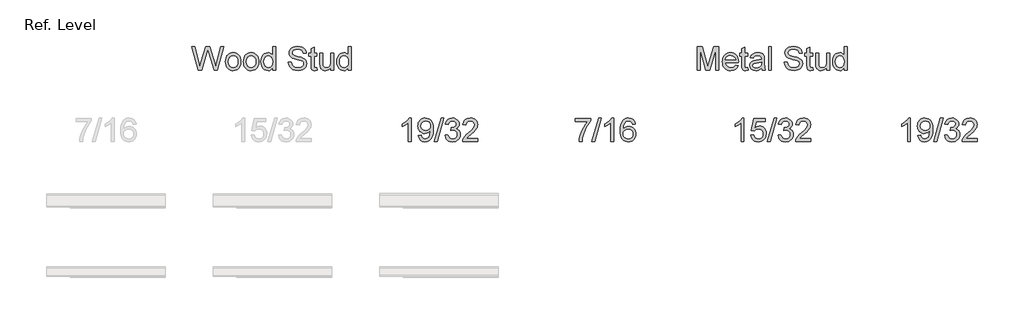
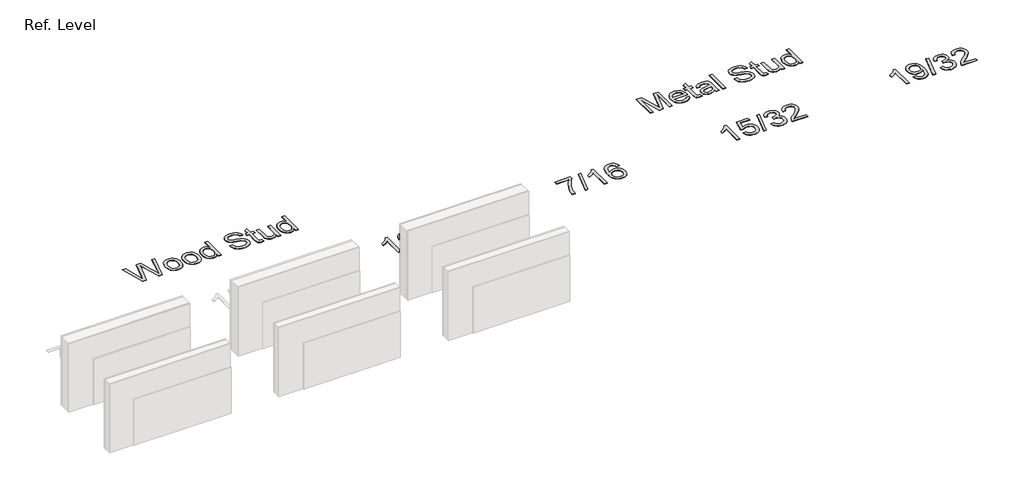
# One storey, part 5 of 5: 6 proxies.
"""IFC4 building model written with IfcOpenShell, lengths in millimetres."""

import ifcopenshell
import ifcopenshell.guid

model = None  # the IFC model being written
_history = None  # IfcOwnerHistory: only IFC2X3 demands one
_inside = {}  # id of a spatial element -> (the spatial element, [elements in it])
_under = {}  # id of a project, library or spatial element -> (it, [spatial elements below it])
_declared = {}  # id of a project -> (the project, [libraries it declares])
_typed = {}  # id of a type object -> (the type object, [elements of that type])
_made_of = {}  # id of a material, layer set ... -> (it, [elements and type objects made of it])


def new_model(schema):
    """Start an empty IFC model of exactly this schema.

    Asked for "IFC4X3", IfcOpenShell would pick the latest addendum, in which some entities
    have other attributes; the version numbers below select the first issue.
    IFC2X3 requires an IfcOwnerHistory on every rooted entity: one is made here for all.
    """
    global model, _history
    if schema == "IFC4X3":
        model = ifcopenshell.file(schema_version=(4, 3, 0, 0))
    else:
        model = ifcopenshell.file(schema=schema)
    _inside.clear()
    _under.clear()
    _declared.clear()
    _typed.clear()
    _made_of.clear()
    _history = None
    if model.schema == "IFC2X3":
        org = make("IfcOrganization", Name="unknown")
        user = make(
            "IfcPersonAndOrganization",
            ThePerson=make("IfcPerson", FamilyName="unknown"),
            TheOrganization=org,
        )
        app = make(
            "IfcApplication",
            ApplicationDeveloper=org,
            Version="unknown",
            ApplicationFullName="unknown",
            ApplicationIdentifier="unknown",
        )
        _history = make(
            "IfcOwnerHistory",
            OwningUser=user,
            OwningApplication=app,
            ChangeAction="ADDED",
            CreationDate=0,
        )
    return model


def make(cls, **values):
    """One entity of the class cls with the attributes given. An attribute that is None is left unset."""
    return model.create_entity(
        cls, **{name: value for name, value in values.items() if value is not None}
    )


def rooted(cls, **values):
    """An entity with a GlobalId (a new one), such as an element, a storey or a relation."""
    return make(cls, GlobalId=ifcopenshell.guid.new(), OwnerHistory=_history, **values)


def si_unit(unit_type, name, prefix=None):
    """IfcSIUnit, for example si_unit("LENGTHUNIT", "METRE", prefix="MILLI")."""
    return make("IfcSIUnit", UnitType=unit_type, Prefix=prefix, Name=name)


def assignment(units):
    """IfcUnitAssignment: the units of a project."""
    return None if units is None else make("IfcUnitAssignment", Units=units)


def point(xyz):
    """IfcCartesianPoint."""
    return None if xyz is None else make("IfcCartesianPoint", Coordinates=xyz)


def direction(xyz):
    """IfcDirection."""
    return None if xyz is None else make("IfcDirection", DirectionRatios=xyz)


def frame(location, z_axis=None, x_axis=None):
    """IfcAxis2Placement3D, a coordinate frame: its origin and axes. An axis left out is left unset."""
    return make(
        "IfcAxis2Placement3D",
        Location=point(location),
        Axis=direction(z_axis),
        RefDirection=direction(x_axis),
    )


def origin():
    """The frame at (0, 0, 0) with its axes left unset."""
    return frame((0.0, 0.0, 0.0))


def origin_with_axes():
    """The frame at (0, 0, 0) with the z axis (0, 0, 1) and the x axis (1, 0, 0) written out."""
    return frame((0.0, 0.0, 0.0), z_axis=(0.0, 0.0, 1.0), x_axis=(1.0, 0.0, 0.0))


def place(relative_to, where):
    """IfcLocalPlacement: puts the frame where relative to a parent placement (None: the world)."""
    return make(
        "IfcLocalPlacement", PlacementRelTo=relative_to, RelativePlacement=where
    )


def context(
    kind, dimensions, precision=None, world=None, true_north=None, identifier=None
):
    """IfcGeometricRepresentationContext, for example the 3D "Model" context."""
    return make(
        "IfcGeometricRepresentationContext",
        ContextIdentifier=identifier,
        ContextType=kind,
        CoordinateSpaceDimension=dimensions,
        Precision=precision,
        WorldCoordinateSystem=world,
        TrueNorth=true_north,
    )


def project(units=None, contexts=None):
    """IfcProject with its units and contexts."""
    return rooted(
        "IfcProject",
        Name="project",
        RepresentationContexts=contexts,
        UnitsInContext=assignment(units),
    )


def spatial(cls, under=None, at=None, **own):
    """A site, building, storey or space (cls), placed at a placement, below another one or the project."""
    s = rooted(cls, ObjectPlacement=at, **own)
    if under is not None:
        _under.setdefault(under.id(), (under, []))[1].append(s)
    return s


def polyline(points):
    """IfcPolyline through the points."""
    return make("IfcPolyline", Points=[point(p) for p in points])


def outline(outer, holes=None, kind="AREA"):
    """IfcArbitraryClosedProfileDef: a profile drawn as a closed curve; with holes, ...WithVoids."""
    if holes is None:
        return make("IfcArbitraryClosedProfileDef", ProfileType=kind, OuterCurve=outer)
    return make(
        "IfcArbitraryProfileDefWithVoids",
        ProfileType=kind,
        OuterCurve=outer,
        InnerCurves=holes,
    )


def extrude(swept, where, along, depth):
    """IfcExtrudedAreaSolid: the profile swept, set in the frame where, extruded along a direction by depth."""
    return make(
        "IfcExtrudedAreaSolid",
        SweptArea=swept,
        Position=where,
        ExtrudedDirection=direction(along),
        Depth=depth,
    )


def shape(context_of_items, identifier, shape_type, items):
    """IfcShapeRepresentation: the items that make up one representation, for example the "Body"."""
    return make(
        "IfcShapeRepresentation",
        ContextOfItems=context_of_items,
        RepresentationIdentifier=identifier,
        RepresentationType=shape_type,
        Items=items,
    )


def made_of(thing, what):
    """Note that an element or type object is made of a material, layer set ...; save() writes the relation."""
    if what is not None:
        _made_of.setdefault(what.id(), (what, []))[1].append(thing)
    return thing


def element(
    cls,
    number,
    at=None,
    inside=None,
    cuts=None,
    type_object=None,
    material=None,
    context=None,
    identifier="Body",
    shape_type=None,
    held_by="IfcProductDefinitionShape",
    body=None,
    shapes=None,
    **own,
):
    """One element of the class cls, such as IfcWall. Its Tag is "e" and its number.

    at: its placement. inside: the storey or other place that contains it. cuts: it is an
    opening in that element (IfcRelVoidsElement). A single representation is given by context,
    identifier, shape_type and body (its items); several are given by shapes. held_by: the class
    of the entity that holds the representations. save() writes the other relations.
    """
    e = rooted(cls, Tag="e%d" % number, ObjectPlacement=at, **own)
    if body is not None:
        shapes = [shape(context, identifier, shape_type, body)]
    if shapes is not None:
        e.Representation = make(held_by, Representations=shapes)
    if inside is not None:
        _inside.setdefault(inside.id(), (inside, []))[1].append(e)
    if cuts is not None:
        rooted(
            "IfcRelVoidsElement", RelatingBuildingElement=cuts, RelatedOpeningElement=e
        )
    if type_object is not None:
        _typed.setdefault(type_object.id(), (type_object, []))[1].append(e)
    return made_of(e, material)


def aggregate(whole, parts):
    """IfcRelAggregates: a whole, such as a stair, and the parts it consists of."""
    return rooted("IfcRelAggregates", RelatingObject=whole, RelatedObjects=parts)


def save(model, path):
    """Write the relations noted so far, then the file.

    IfcRelAggregates (storeys below a building ...), IfcRelContainedInSpatialStructure (elements
    in a storey), IfcRelDefinesByType, IfcRelAssociatesMaterial and IfcRelDeclares: one each for
    every whole, place, type object, material and project.
    """
    for whole, parts in _under.values():
        aggregate(whole, parts)
    for where, things in _inside.values():
        rooted(
            "IfcRelContainedInSpatialStructure",
            RelatedElements=things,
            RelatingStructure=where,
        )
    for kind, things in _typed.values():
        rooted("IfcRelDefinesByType", RelatedObjects=things, RelatingType=kind)
    for what, things in _made_of.values():
        rooted("IfcRelAssociatesMaterial", RelatedObjects=things, RelatingMaterial=what)
    for by, libraries in _declared.values():
        rooted("IfcRelDeclares", RelatingContext=by, RelatedDefinitions=libraries)
    model.write(path)


model = new_model("IFC4")

# Units and contexts
model_context = context("Model", 3, world=origin())
ifc_project = project(units=[si_unit("LENGTHUNIT", "METRE", prefix="MILLI")], contexts=[model_context])

# Site, building, storey
site = spatial("IfcSite", under=ifc_project)
building = spatial("IfcBuilding", under=site)
storey = spatial("IfcBuildingStorey", under=building, Name="Ref. Level", Elevation=0.0)

# Proxies
placement = place(None, origin())
element("IfcBuildingElementProxy", 1, Name="12\" Arial", ObjectType="12\" Arial", at=placement, inside=storey, context=model_context, shape_type="SweptSolid", body=[
    extrude(outline(polyline([(-3057.7500932, -532.5819205), (-3095.2639394, -532.5819205), (-3095.2639394, -298.7065358), (-3130.7995163, -324.0210551), (-3170.2916317, -342.9611512), (-3170.2916317, -307.4988435), (-3140.8282423, -291.4711993), (-3115.303074, -272.402882), (-3095.1815115, -252.1256224), (-3081.9289394, -232.4711512), (-3057.7500932, -232.4711512), (-3057.7500932, -532.5819205)])), origin_with_axes(), (0.0, 0.0, 1.0), 3.175),
    extrude(outline(polyline([(-2963.9654778, -457.5542281), (-2926.4516317, -452.8649974), (-2920.040574, -474.1588676), (-2909.5997086, -488.6570166), (-2895.3854778, -496.982233), (-2877.654324, -499.7573051), (-2861.7457423, -497.9713676), (-2847.2842278, -492.6135551), (-2835.268074, -484.2700214), (-2826.695574, -473.5269205), (-2814.4229778, -440.9221128), (-2809.0010548, -397.4001897), (-2809.2208625, -390.0732666), (-2822.2169923, -405.9360551), (-2839.2246125, -418.5017281), (-2859.0164634, -426.6895647), (-2880.3652855, -429.4188435), (-2898.1857363, -427.7519685), (-2914.5728577, -422.7513435), (-2929.5266497, -414.4169685), (-2943.0471125, -402.7488435), (-2954.2504358, -388.356019), (-2962.2528096, -371.8475455), (-2967.0542339, -353.2234229), (-2968.6547086, -332.4836512), (-2966.9763853, -311.0524012), (-2961.9414153, -291.8192281), (-2953.5497988, -274.784132), (-2941.8015355, -259.9471128), (-2927.5254839, -247.9263796), (-2911.5505019, -239.3401416), (-2893.8765896, -234.1883988), (-2874.5037471, -232.4711512), (-2846.5240596, -236.3910551), (-2821.0538432, -248.1507666), (-2799.7508144, -267.164132), (-2784.2726894, -292.8449974), (-2774.8484346, -328.3439397), (-2771.7070163, -376.8115358), (-2774.8392759, -428.2007426), (-2784.2360548, -467.9218243), (-2799.814925, -497.7698772), (-2821.4934586, -519.5399974), (-2848.337473, -532.8383628), (-2879.4127855, -537.2711512), (-2911.4863913, -532.0415599), (-2937.0756702, -516.3527858), (-2954.9716798, -491.1939637), (-2963.9654778, -457.5542281)]), holes=[polyline([(-2809.2208625, -331.6044205), (-2813.2689875, -306.1799974), (-2825.4133625, -286.6171128), (-2844.2618721, -274.1430262), (-2868.4224009, -269.9849974), (-2893.4804778, -274.4635791), (-2913.5562471, -287.8993243), (-2926.7447086, -308.4605022), (-2931.1408625, -334.315382), (-2926.9828336, -357.4959349), (-2914.5087471, -375.8956705), (-2894.9275452, -387.9026656), (-2869.4481702, -391.9049974), (-2845.479973, -387.9026656), (-2826.1826894, -375.8956705), (-2813.4613192, -356.8181945), (-2809.2208625, -331.6044205)])]), origin_with_axes(), (0.0, 0.0, 1.0), 3.175),
    extrude(outline(polyline([(-2757.639324, -532.5819205), (-2673.2331702, -232.4711512), (-2639.3827855, -232.4711512), (-2723.7889394, -532.5819205), (-2757.639324, -532.5819205)])), origin_with_axes(), (0.0, 0.0, 1.0), 3.175),
    extrude(outline(polyline([(-2621.6516317, -452.8649974), (-2584.1377855, -448.1757666), (-2575.7393, -471.7501416), (-2563.4392278, -487.667882), (-2546.633098, -496.7349493), (-2524.7164394, -499.7573051), (-2498.9989394, -495.5992762), (-2479.1429778, -483.1251897), (-2466.4490836, -464.5148051), (-2462.2177855, -441.947882), (-2466.412449, -420.5257906), (-2478.9964394, -403.1518243), (-2498.0464394, -391.6393964), (-2521.6391317, -387.8019205), (-2547.9427855, -391.9049974), (-2543.7664394, -354.3911512), (-2537.7583625, -354.8307666), (-2515.2830259, -352.1381224), (-2495.1889394, -344.0601897), (-2481.0113432, -330.3954781), (-2476.2854778, -310.9424974), (-2479.7108144, -294.7408387), (-2489.986824, -281.5981705), (-2505.6664394, -272.8882906), (-2525.3025932, -269.9849974), (-2544.9753817, -272.9157666), (-2561.0579778, -281.7080743), (-2572.7993721, -296.3619205), (-2579.4485548, -316.8773051), (-2616.9624009, -312.1880743), (-2605.9170644, -278.5025455), (-2586.2625932, -253.352882), (-2559.3727855, -237.6915839), (-2526.6214394, -232.4711512), (-2503.0379057, -235.044733), (-2481.3776894, -242.7654781), (-2463.1153336, -254.9464878), (-2449.7253817, -270.9008628), (-2441.5100692, -289.282281), (-2438.7716317, -308.7444205), (-2441.3726894, -326.8785551), (-2449.1758625, -343.3274974), (-2462.0712471, -357.3402378), (-2479.9489394, -368.1657666), (-2456.4661509, -377.654132), (-2439.0647086, -393.8099974), (-2428.2941317, -415.754132), (-2424.7039394, -442.6073051), (-2426.4990355, -461.6389878), (-2431.884324, -479.1686512), (-2440.8598048, -495.1962955), (-2453.4254778, -509.7219205), (-2468.7341677, -521.7747089), (-2485.938699, -530.3838435), (-2505.0390716, -535.5493243), (-2526.0352855, -537.2711512), (-2562.3035548, -531.3912955), (-2577.9099009, -524.0414757), (-2591.8310548, -513.7517281), (-2603.5037591, -501.1265238), (-2612.3647567, -486.7703339), (-2621.6516317, -452.8649974)])), origin_with_axes(), (0.0, 0.0, 1.0), 3.175),
    extrude(outline(polyline([(-2199.6208625, -495.0680743), (-2199.6208625, -532.5819205), (-2396.5685548, -532.5819205), (-2392.5387471, -506.717882), (-2383.2885067, -486.504733), (-2369.7520163, -466.8960551), (-2350.1708144, -446.3715118), (-2322.7864394, -423.4107666), (-2282.3051894, -387.4538916), (-2258.0164394, -360.9121128), (-2245.8720644, -339.3709589), (-2241.8239394, -318.4159589), (-2245.643098, -299.6315599), (-2257.100574, -284.0160551), (-2274.7126653, -273.4927618), (-2296.9956702, -269.9849974), (-2320.3960307, -273.4103339), (-2338.5759586, -283.6863435), (-2350.3081942, -300.0070647), (-2354.3654778, -321.5665358), (-2391.879324, -316.8773051), (-2382.7847807, -280.5907185), (-2374.2741016, -266.1154661), (-2363.1211509, -254.0855743), (-2349.5823709, -244.6292642), (-2333.9142038, -237.874757), (-2296.1897086, -232.4711512), (-2276.0841738, -233.9731705), (-2258.1904538, -238.4792281), (-2242.5085488, -245.9893243), (-2229.0384586, -256.5034589), (-2218.2197988, -269.2431464), (-2210.4921846, -283.4299012), (-2205.8556161, -299.0637233), (-2204.3100932, -316.1446128), (-2205.9769682, -334.0864156), (-2210.9775932, -351.7168243), (-2219.8523288, -369.6494685), (-2233.1415355, -388.4979781), (-2254.3255019, -411.0007906), (-2286.8845163, -439.8963435), (-2330.0400932, -475.9814397), (-2346.9652855, -495.0680743), (-2199.6208625, -495.0680743)])), origin_with_axes(), (0.0, 0.0, 1.0), 3.175),
])
element("IfcBuildingElementProxy", 2, Name="12\" Arial", ObjectType="12\" Arial", at=placement, inside=storey, context=model_context, shape_type="SweptSolid", body=[
    extrude(outline(polyline([(-5784.7575932, 381.8180795), (-5866.599324, 681.9288488), (-5827.9131702, 681.9288488), (-5780.4347086, 484.6880795), (-5765.7808625, 423.8013488), (-5750.1012471, 477.6542334), (-5690.6066317, 681.9288488), (-5634.8487471, 681.9288488), (-5591.6199009, 533.8517334), (-5573.1011028, 478.8998103), (-5559.4547086, 423.8013488), (-5545.2404778, 482.929618), (-5497.3224009, 681.9288488), (-5458.6362471, 681.9288488), (-5540.5512471, 381.8180795), (-5580.6295163, 381.8180795), (-5652.5799009, 613.3488488), (-5662.6177855, 645.6605795), (-5673.9012471, 606.754618), (-5739.4772086, 381.8180795), (-5784.7575932, 381.8180795)])), origin_with_axes(), (0.0, 0.0, 1.0), 3.175),
    extrude(outline(polyline([(-5435.1900932, 492.0150026), (-5433.1614514, 520.5579473), (-5427.0755259, 545.1535122), (-5416.9323168, 565.8016973), (-5402.731824, 582.5025026), (-5388.4351653, 593.1769137), (-5372.6548048, 600.801493), (-5355.3907423, 605.3762406), (-5336.6429778, 606.9011565), (-5315.9467098, 605.0442394), (-5297.2332903, 599.4734882), (-5280.5027194, 590.1889029), (-5265.7549971, 577.1904834), (-5253.7182363, 560.9178452), (-5245.12055, 541.8106036), (-5239.9619382, 519.8687586), (-5238.2424009, 495.0923103), (-5241.283074, 457.1938007), (-5250.4050932, 428.3440411), (-5265.3428577, 406.7387767), (-5285.8307663, 390.5737526), (-5310.1653096, 380.4900747), (-5336.6429778, 377.1288488), (-5357.6414814, 378.9788969), (-5376.5289153, 384.5290411), (-5393.3052795, 393.7792815), (-5407.970574, 406.729618), (-5419.8791137, 423.160243), (-5428.3852134, 442.8513488), (-5433.4888733, 465.8029353), (-5435.1900932, 492.0150026)]), holes=[polyline([(-5397.6762471, 492.0882719), (-5393.3350452, 458.137142), (-5380.3114394, 433.9491372), (-5360.7119202, 419.4693055), (-5336.6429778, 414.6426949), (-5312.6839394, 419.4967815), (-5293.1210548, 434.0590411), (-5280.097449, 458.5675988), (-5275.7562471, 493.2605795), (-5280.124925, 526.2225747), (-5293.2309586, 550.080868), (-5312.8213192, 564.5606997), (-5336.6429778, 569.3873103), (-5360.7119202, 564.579017), (-5380.3114394, 550.1541372), (-5393.3350452, 526.0210844), (-5397.6762471, 492.0882719)])]), origin_with_axes(), (0.0, 0.0, 1.0), 3.175),
    extrude(outline(polyline([(-5205.4177855, 492.0150026), (-5203.3891437, 520.5579473), (-5197.3032182, 545.1535122), (-5187.1600091, 565.8016973), (-5172.9595163, 582.5025026), (-5158.6628577, 593.1769137), (-5142.8824971, 600.801493), (-5125.6184346, 605.3762406), (-5106.8706702, 606.9011565), (-5086.1744021, 605.0442394), (-5067.4609827, 599.4734882), (-5050.7304117, 590.1889029), (-5035.9826894, 577.1904834), (-5023.9459286, 560.9178452), (-5015.3482423, 541.8106036), (-5010.1896305, 519.8687586), (-5008.4700932, 495.0923103), (-5011.5107663, 457.1938007), (-5020.6327855, 428.3440411), (-5035.57055, 406.7387767), (-5056.0584586, 390.5737526), (-5080.3930019, 380.4900747), (-5106.8706702, 377.1288488), (-5127.8691738, 378.9788969), (-5146.7566077, 384.5290411), (-5163.5329718, 393.7792815), (-5178.1982663, 406.729618), (-5190.106806, 423.160243), (-5198.6129057, 442.8513488), (-5203.7165656, 465.8029353), (-5205.4177855, 492.0150026)]), holes=[polyline([(-5167.9039394, 492.0882719), (-5163.5627375, 458.137142), (-5150.5391317, 433.9491372), (-5130.9396125, 419.4693055), (-5106.8706702, 414.6426949), (-5082.9116317, 419.4967815), (-5063.3487471, 434.0590411), (-5050.3251413, 458.5675988), (-5045.9839394, 493.2605795), (-5050.3526173, 526.2225747), (-5063.4586509, 550.080868), (-5083.0490115, 564.5606997), (-5106.8706702, 569.3873103), (-5130.9396125, 564.579017), (-5150.5391317, 550.1541372), (-5163.5627375, 526.0210844), (-5167.9039394, 492.0882719)])]), origin_with_axes(), (0.0, 0.0, 1.0), 3.175),
    extrude(outline(polyline([(-4830.279324, 381.8180795), (-4830.279324, 417.207118), (-4841.5032543, 399.6728752), (-4855.0992759, 387.1484161), (-4871.0673889, 379.6337406), (-4889.4075932, 377.1288488), (-4913.6597086, 380.7556757), (-4935.8602855, 391.6361565), (-4954.6538432, 409.0101228), (-4968.6849009, 432.1174065), (-4977.4222567, 460.0238247), (-4980.3347086, 491.7951949), (-4977.651223, 523.172743), (-4969.6007663, 551.509618), (-4956.1924971, 575.1938969), (-4937.435574, 592.6136565), (-4914.7495884, 603.3292815), (-4889.5541317, 606.9011565), (-4871.2001894, 604.345892), (-4854.9710548, 596.6800988), (-4841.2147567, 584.9295459), (-4830.279324, 570.1200026), (-4830.279324, 681.9288488), (-4792.7654778, 681.9288488), (-4792.7654778, 381.8180795), (-4830.279324, 381.8180795)]), holes=[polyline([(-4942.8208625, 491.9417334), (-4938.5895644, 458.0089209), (-4925.8956702, 433.875868), (-4907.4501413, 419.4509882), (-4885.9639394, 414.6426949), (-4864.4868961, 419.2311805), (-4846.5084586, 432.9966372), (-4834.3366077, 456.1955074), (-4830.279324, 489.0842334), (-4834.4098769, 525.0411084), (-4846.8015355, 549.9709642), (-4865.2379057, 564.5332238), (-4887.5025932, 569.3873103), (-4909.2086028, 564.7255555), (-4926.9947086, 550.7402911), (-4938.864324, 526.717142), (-4942.8208625, 491.9417334)])]), origin_with_axes(), (0.0, 0.0, 1.0), 3.175),
    extrude(outline(polyline([(-4628.6424009, 484.9811565), (-4591.1285548, 484.9811565), (-4586.8239875, 464.1635363), (-4579.0391317, 447.4306757), (-4566.8947567, 434.1506276), (-4549.5116317, 423.6914449), (-4528.2635548, 416.9048824), (-4504.524324, 414.6426949), (-4483.6242759, 416.3553632), (-4465.3252855, 421.493368), (-4450.497425, 429.6262526), (-4440.0107663, 440.3235603), (-4433.773723, 452.6053151), (-4431.6947086, 465.4915411), (-4433.2516798, 478.0480555), (-4437.9225932, 488.9010603), (-4447.4109586, 498.1604594), (-4463.4202855, 505.9361565), (-4518.0424971, 520.2602911), (-4553.8986269, 529.7394978), (-4576.8410548, 538.7607719), (-4595.51555, 551.3813969), (-4608.7498048, 566.6763488), (-4616.6354057, 584.3159161), (-4619.2639394, 603.9703872), (-4616.0126173, 625.9419978), (-4606.2586509, 646.4299065), (-4590.2584827, 663.7947142), (-4568.2685548, 676.3970219), (-4541.8733144, 684.0628151), (-4512.6572086, 686.6180795), (-4481.0049009, 683.9437526), (-4453.3091317, 675.9207719), (-4430.5590355, 662.713993), (-4413.7437471, 644.4882719), (-4403.1013913, 622.3792815), (-4398.8700932, 597.5226949), (-4436.3839394, 597.5226949), (-4443.2712471, 619.9064449), (-4457.6320163, 636.0623103), (-4480.0707182, 645.8437526), (-4511.191824, 649.1042334), (-4543.0456221, 645.8803872), (-4564.8981702, 636.2088488), (-4577.5371125, 621.9763007), (-4581.7500932, 605.0694257), (-4578.7643721, 590.6537045), (-4569.8072086, 579.0588488), (-4548.6324009, 568.6912526), (-4508.5541317, 558.1038488), (-4467.1936509, 548.0476469), (-4442.1722086, 539.2736565), (-4420.7867519, 525.6638969), (-4405.8673048, 508.8669257), (-4397.102473, 489.0659161), (-4394.1808625, 466.4440411), (-4397.5420884, 443.3184401), (-4407.6257663, 421.5666372), (-4424.0197567, 402.8463488), (-4446.3119202, 388.8152911), (-4473.1193, 380.0504594), (-4503.0589394, 377.1288488), (-4539.8126173, 380.2794257), (-4570.0636509, 389.7311565), (-4594.1600692, 405.5206757), (-4612.4499009, 427.684618), (-4624.1912952, 454.6843295), (-4628.6424009, 484.9811565)])), origin_with_axes(), (0.0, 0.0, 1.0), 3.175),
    extrude(outline(polyline([(-4262.8824009, 413.1040411), (-4258.1931702, 380.7190411), (-4286.2552855, 377.1288488), (-4304.261199, 378.6858199), (-4317.6877855, 383.3567334), (-4327.1761509, 390.5554353), (-4333.3674009, 399.6957719), (-4336.7744202, 415.3937045), (-4337.9100932, 442.2651949), (-4337.9100932, 564.6980795), (-4366.0454778, 564.6980795), (-4366.0454778, 602.2119257), (-4337.9100932, 602.2119257), (-4337.9100932, 655.7717334), (-4300.3962471, 677.8257719), (-4300.3962471, 602.2119257), (-4262.8824009, 602.2119257), (-4262.8824009, 564.6980795), (-4300.3962471, 564.6980795), (-4300.3962471, 443.3642334), (-4298.4179778, 424.0211565), (-4292.0069202, 417.1704834), (-4279.2214394, 414.6426949), (-4262.8824009, 413.1040411)])), origin_with_axes(), (0.0, 0.0, 1.0), 3.175),
    extrude(outline(polyline([(-4084.6916317, 381.8180795), (-4084.6916317, 419.6982719), (-4098.2647567, 401.0741493), (-4114.0725932, 387.7712045), (-4132.1151413, 379.7894377), (-4152.3924009, 377.1288488), (-4170.6639153, 378.9972142), (-4187.6715355, 384.6023103), (-4201.9407182, 393.0282719), (-4211.9969202, 403.3592334), (-4223.1704778, 430.9817334), (-4225.3685548, 465.8578872), (-4225.3685548, 602.2119257), (-4187.8547086, 602.2119257), (-4187.8547086, 483.5157719), (-4185.5833625, 445.2692334), (-4180.1156461, 432.5112286), (-4170.7463432, 422.8122142), (-4158.0982423, 416.6850747), (-4142.7941317, 414.6426949), (-4126.6107903, 416.730868), (-4111.4715355, 422.9953872), (-4098.9882903, 432.8592574), (-4090.7729778, 445.7454834), (-4086.2119682, 463.3942094), (-4084.6916317, 487.5455795), (-4084.6916317, 602.2119257), (-4047.1777855, 602.2119257), (-4047.1777855, 381.8180795), (-4084.6916317, 381.8180795)])), origin_with_axes(), (0.0, 0.0, 1.0), 3.175),
    extrude(outline(polyline([(-3859.6085548, 381.8180795), (-3859.6085548, 417.207118), (-3870.8324851, 399.6728752), (-3884.4285067, 387.1484161), (-3900.3966197, 379.6337406), (-3918.736824, 377.1288488), (-3942.9889394, 380.7556757), (-3965.1895163, 391.6361565), (-3983.983074, 409.0101228), (-3998.0141317, 432.1174065), (-4006.7514875, 460.0238247), (-4009.6639394, 491.7951949), (-4006.9804538, 523.172743), (-3998.9299971, 551.509618), (-3985.5217278, 575.1938969), (-3966.7648048, 592.6136565), (-3944.0788192, 603.3292815), (-3918.8833625, 606.9011565), (-3900.5294202, 604.345892), (-3884.3002855, 596.6800988), (-3870.5439875, 584.9295459), (-3859.6085548, 570.1200026), (-3859.6085548, 681.9288488), (-3822.0947086, 681.9288488), (-3822.0947086, 381.8180795), (-3859.6085548, 381.8180795)]), holes=[polyline([(-3972.1500932, 491.9417334), (-3967.9187952, 458.0089209), (-3955.2249009, 433.875868), (-3936.7793721, 419.4509882), (-3915.2931702, 414.6426949), (-3893.8161269, 419.2311805), (-3875.8376894, 432.9966372), (-3863.6658384, 456.1955074), (-3859.6085548, 489.0842334), (-3863.7391077, 525.0411084), (-3876.1307663, 549.9709642), (-3894.5671365, 564.5332238), (-3916.831824, 569.3873103), (-3938.5378336, 564.7255555), (-3956.3239394, 550.7402911), (-3968.1935548, 526.717142), (-3972.1500932, 491.9417334)])]), origin_with_axes(), (0.0, 0.0, 1.0), 3.175),
])
element("IfcBuildingElementProxy", 3, Name="12\" Arial", ObjectType="12\" Arial", at=placement, inside=storey, context=model_context, shape_type="SweptSolid", body=[
    extrude(outline(polyline([(609.2283683, 381.8180795), (609.2283683, 681.9288488), (673.7785606, 681.9288488), (735.178176, 470.4005795), (747.560676, 426.2192334), (760.9689452, 474.0640411), (821.3427914, 681.9288488), (885.8929837, 681.9288488), (885.8929837, 381.8180795), (848.3791375, 381.8180795), (848.3791375, 644.4150026), (772.9850991, 381.8180795), (722.1362529, 381.8180795), (646.7422145, 644.4150026), (646.7422145, 381.8180795), (609.2283683, 381.8180795)])), origin_with_axes(), (0.0, 0.0, 1.0), 3.175),
    extrude(outline(polyline([(1101.1579837, 447.4673103), (1137.9391375, 442.7780795), (1124.6865654, 415.063993), (1103.5392337, 394.347118), (1074.9733923, 381.4334161), (1039.4652914, 377.1288488), (1016.1885726, 378.9857658), (995.448801, 384.556517), (977.2459765, 393.8411024), (961.5800991, 406.8395219), (948.9823707, 423.1900086), (939.9839933, 442.5307959), (934.5849669, 464.8618836), (932.7852914, 490.1832719), (934.6032842, 516.3632839), (940.0572625, 539.4385122), (949.1472265, 559.4089569), (961.873176, 576.274618), (977.4978395, 589.6737286), (995.2839452, 599.2445219), (1015.2314933, 604.9869978), (1037.3404837, 606.9011565), (1058.7373887, 604.9915771), (1078.0873347, 599.2628392), (1095.3903214, 589.7149425), (1110.6463491, 576.3478872), (1123.0998286, 559.5188608), (1131.9951712, 539.5850507), (1137.3323767, 516.5464569), (1139.1114452, 490.4030795), (1138.8916375, 480.2919257), (970.2991375, 480.2919257), (976.7926231, 452.211493), (991.876926, 431.5678872), (1013.6470462, 418.873993), (1040.1979837, 414.6426949), (1060.1638491, 416.6026469), (1076.9791375, 422.4825026), (1090.6438491, 432.6486084), (1101.1579837, 447.4673103)]), holes=[polyline([(970.2991375, 517.8057719), (1101.5975991, 517.8057719), (1096.5237048, 537.6250988), (1086.5774068, 551.8026949), (1064.7065414, 564.9911565), (1037.1939452, 569.3873103), (1011.906902, 565.8795459), (990.9976952, 555.3562526), (976.4629116, 538.9531036), (970.2991375, 517.8057719)])]), origin_with_axes(), (0.0, 0.0, 1.0), 3.175),
    extrude(outline(polyline([(1256.3422145, 413.1040411), (1261.0314452, 380.7190411), (1232.9693298, 377.1288488), (1214.9634164, 378.6858199), (1201.5368298, 383.3567334), (1192.0484645, 390.5554353), (1185.8572145, 399.6957719), (1182.4501952, 415.3937045), (1181.3145222, 442.2651949), (1181.3145222, 564.6980795), (1153.1791375, 564.6980795), (1153.1791375, 602.2119257), (1181.3145222, 602.2119257), (1181.3145222, 655.7717334), (1218.8283683, 677.8257719), (1218.8283683, 602.2119257), (1256.3422145, 602.2119257), (1256.3422145, 564.6980795), (1218.8283683, 564.6980795), (1218.8283683, 443.3642334), (1220.8066375, 424.0211565), (1227.2176952, 417.1704834), (1240.003176, 414.6426949), (1256.3422145, 413.1040411)])), origin_with_axes(), (0.0, 0.0, 1.0), 3.175),
    extrude(outline(polyline([(1434.5329837, 409.9534642), (1416.6094981, 394.585243), (1398.1548106, 384.5290411), (1378.7476231, 378.9788969), (1357.9666375, 377.1288488), (1326.6165654, 381.5799545), (1303.4909645, 394.9332719), (1289.2309404, 415.2105315), (1284.4775991, 440.4334642), (1286.2726952, 455.9848584), (1291.6579837, 470.1075026), (1299.9648827, 482.1969257), (1310.5248106, 491.6486565), (1336.7918298, 503.9578872), (1369.2500991, 509.599618), (1407.6065414, 515.5344257), (1434.313176, 522.4950026), (1434.5329837, 530.8476949), (1431.9502433, 547.5897142), (1424.2020222, 558.5434642), (1406.8738491, 566.6763488), (1382.7316375, 569.3873103), (1360.3845222, 567.5830555), (1344.778176, 562.1702911), (1334.1358202, 552.1598824), (1326.680676, 536.5626949), (1289.1668298, 541.2519257), (1295.6786327, 561.7673103), (1305.3959645, 577.8865411), (1319.2255318, 590.2140892), (1338.0740414, 599.3544257), (1361.1263731, 605.0144738), (1387.5674068, 606.9011565), (1412.9277193, 605.2342815), (1433.0309645, 600.2336565), (1448.1885366, 592.7144017), (1458.7118298, 583.4916372), (1465.6907241, 572.0891132), (1470.2150991, 558.0305795), (1472.0468298, 525.2059642), (1472.0468298, 478.5334642), (1473.9518298, 413.3604834), (1481.4252914, 381.8180795), (1443.9114452, 381.8180795), (1434.5329837, 409.9534642)]), holes=[polyline([(1434.5329837, 484.9811565), (1374.0125991, 473.4778872), (1341.7375029, 467.3965411), (1327.1202914, 457.5051949), (1321.9914452, 443.0711565), (1324.7848347, 431.9159161), (1333.1650029, 422.7755795), (1346.948777, 416.6759161), (1365.9529837, 414.6426949), (1386.1020222, 416.8865651), (1403.9064452, 423.6181757), (1418.3404837, 433.5369978), (1428.3783683, 445.3425026), (1432.8294741, 457.5051949), (1434.313176, 474.357118), (1434.5329837, 484.9811565)])]), origin_with_axes(), (0.0, 0.0, 1.0), 3.175),
    extrude(outline(polyline([(1523.6283683, 381.8180795), (1523.6283683, 681.9288488), (1561.1422145, 681.9288488), (1561.1422145, 381.8180795), (1523.6283683, 381.8180795)])), origin_with_axes(), (0.0, 0.0, 1.0), 3.175),
    extrude(outline(polyline([(1725.2652914, 484.9811565), (1762.7791375, 484.9811565), (1767.0837048, 464.1635363), (1774.8685606, 447.4306757), (1787.0129356, 434.1506276), (1804.3960606, 423.6914449), (1825.6441375, 416.9048824), (1849.3833683, 414.6426949), (1870.2834164, 416.3553632), (1888.5824068, 421.493368), (1903.4102673, 429.6262526), (1913.896926, 440.3235603), (1920.1339693, 452.6053151), (1922.2129837, 465.4915411), (1920.6560125, 478.0480555), (1915.9850991, 488.9010603), (1906.4967337, 498.1604594), (1890.4874068, 505.9361565), (1835.8651952, 520.2602911), (1800.0090654, 529.7394978), (1777.0666375, 538.7607719), (1758.3921423, 551.3813969), (1745.1578875, 566.6763488), (1737.2722866, 584.3159161), (1734.6437529, 603.9703872), (1737.895075, 625.9419978), (1747.6490414, 646.4299065), (1763.6492097, 663.7947142), (1785.6391375, 676.3970219), (1812.0343779, 684.0628151), (1841.2504837, 686.6180795), (1872.9027914, 683.9437526), (1900.5985606, 675.9207719), (1923.3486568, 662.713993), (1940.1639452, 644.4882719), (1950.806301, 622.3792815), (1955.0375991, 597.5226949), (1917.5237529, 597.5226949), (1910.6364452, 619.9064449), (1896.275676, 636.0623103), (1873.8369741, 645.8437526), (1842.7158683, 649.1042334), (1810.8620702, 645.8803872), (1789.0095222, 636.2088488), (1776.3705798, 621.9763007), (1772.1575991, 605.0694257), (1775.1433202, 590.6537045), (1784.1004837, 579.0588488), (1805.2752914, 568.6912526), (1845.3535606, 558.1038488), (1886.7140414, 548.0476469), (1911.7354837, 539.2736565), (1933.1209404, 525.6638969), (1948.0403875, 508.8669257), (1956.8052193, 489.0659161), (1959.7268298, 466.4440411), (1956.3656039, 443.3184401), (1946.281926, 421.5666372), (1929.8879356, 402.8463488), (1907.5957722, 388.8152911), (1880.7883923, 380.0504594), (1850.8487529, 377.1288488), (1814.095075, 380.2794257), (1783.8440414, 389.7311565), (1759.7476231, 405.5206757), (1741.4577914, 427.684618), (1729.7163972, 454.6843295), (1725.2652914, 484.9811565)])), origin_with_axes(), (0.0, 0.0, 1.0), 3.175),
    extrude(outline(polyline([(2091.0252914, 413.1040411), (2095.7145222, 380.7190411), (2067.6524068, 377.1288488), (2049.6464933, 378.6858199), (2036.2199068, 383.3567334), (2026.7315414, 390.5554353), (2020.5402914, 399.6957719), (2017.1332722, 415.3937045), (2015.9975991, 442.2651949), (2015.9975991, 564.6980795), (1987.8622145, 564.6980795), (1987.8622145, 602.2119257), (2015.9975991, 602.2119257), (2015.9975991, 655.7717334), (2053.5114452, 677.8257719), (2053.5114452, 602.2119257), (2091.0252914, 602.2119257), (2091.0252914, 564.6980795), (2053.5114452, 564.6980795), (2053.5114452, 443.3642334), (2055.4897145, 424.0211565), (2061.9007722, 417.1704834), (2074.6862529, 414.6426949), (2091.0252914, 413.1040411)])), origin_with_axes(), (0.0, 0.0, 1.0), 3.175),
    extrude(outline(polyline([(2269.2160606, 381.8180795), (2269.2160606, 419.6982719), (2255.6429356, 401.0741493), (2239.8350991, 387.7712045), (2221.792551, 379.7894377), (2201.5152914, 377.1288488), (2183.243777, 378.9972142), (2166.2361568, 384.6023103), (2151.9669741, 393.0282719), (2141.9107722, 403.3592334), (2130.7372145, 430.9817334), (2128.5391375, 465.8578872), (2128.5391375, 602.2119257), (2166.0529837, 602.2119257), (2166.0529837, 483.5157719), (2168.3243298, 445.2692334), (2173.7920462, 432.5112286), (2183.1613491, 422.8122142), (2195.80945, 416.6850747), (2211.1135606, 414.6426949), (2227.296902, 416.730868), (2242.4361568, 422.9953872), (2254.919402, 432.8592574), (2263.1347145, 445.7454834), (2267.6957241, 463.3942094), (2269.2160606, 487.5455795), (2269.2160606, 602.2119257), (2306.7299068, 602.2119257), (2306.7299068, 381.8180795), (2269.2160606, 381.8180795)])), origin_with_axes(), (0.0, 0.0, 1.0), 3.175),
    extrude(outline(polyline([(2494.2991375, 381.8180795), (2494.2991375, 417.207118), (2483.0752073, 399.6728752), (2469.4791856, 387.1484161), (2453.5110726, 379.6337406), (2435.1708683, 377.1288488), (2410.9187529, 380.7556757), (2388.718176, 391.6361565), (2369.9246183, 409.0101228), (2355.8935606, 432.1174065), (2347.1562048, 460.0238247), (2344.2437529, 491.7951949), (2346.9272385, 523.172743), (2354.9776952, 551.509618), (2368.3859645, 575.1938969), (2387.1428875, 592.6136565), (2409.8288731, 603.3292815), (2435.0243298, 606.9011565), (2453.3782722, 604.345892), (2469.6074068, 596.6800988), (2483.3637048, 584.9295459), (2494.2991375, 570.1200026), (2494.2991375, 681.9288488), (2531.8129837, 681.9288488), (2531.8129837, 381.8180795), (2494.2991375, 381.8180795)]), holes=[polyline([(2381.7575991, 491.9417334), (2385.9888972, 458.0089209), (2398.6827914, 433.875868), (2417.1283202, 419.4509882), (2438.6145222, 414.6426949), (2460.0915654, 419.2311805), (2478.0700029, 432.9966372), (2490.2418539, 456.1955074), (2494.2991375, 489.0842334), (2490.1685847, 525.0411084), (2477.776926, 549.9709642), (2459.3405558, 564.5332238), (2437.0758683, 569.3873103), (2415.3698587, 564.7255555), (2397.5837529, 550.7402911), (2385.7141375, 526.717142), (2381.7575991, 491.9417334)])]), origin_with_axes(), (0.0, 0.0, 1.0), 3.175),
])
element("IfcBuildingElementProxy", 4, Name="12\" Arial", ObjectType="12\" Arial", at=placement, inside=storey, context=model_context, shape_type="SweptSolid", body=[
    extrude(outline(polyline([(-949.9408625, -274.6742281), (-949.9408625, -237.160382), (-752.9931702, -237.160382), (-752.9931702, -267.4938435), (-781.0644442, -303.0202618), (-808.8609586, -348.1999012), (-833.378675, -398.9113676), (-851.6135548, -451.0332666), (-860.5524009, -490.0308147), (-865.5347086, -532.5819205), (-903.0485548, -532.5819205), (-898.9912711, -493.9140839), (-888.1382663, -447.9559589), (-870.7826173, -399.2410791), (-847.2174009, -352.3029781), (-819.7048048, -309.8709349), (-790.5070163, -274.6742281), (-949.9408625, -274.6742281)])), origin_with_axes(), (0.0, 0.0, 1.0), 3.175),
    extrude(outline(polyline([(-738.9254778, -532.5819205), (-654.519324, -232.4711512), (-620.6689394, -232.4711512), (-705.0750932, -532.5819205), (-738.9254778, -532.5819205)])), origin_with_axes(), (0.0, 0.0, 1.0), 3.175),
    extrude(outline(polyline([(-462.2608625, -532.5819205), (-499.7747086, -532.5819205), (-499.7747086, -298.7065358), (-535.3102855, -324.0210551), (-574.8024009, -342.9611512), (-574.8024009, -307.4988435), (-545.3390115, -291.4711993), (-519.8138432, -272.402882), (-499.6922807, -252.1256224), (-486.4397086, -232.4711512), (-462.2608625, -232.4711512), (-462.2608625, -532.5819205)])), origin_with_axes(), (0.0, 0.0, 1.0), 3.175),
    extrude(outline(polyline([(-180.9070163, -312.1880743), (-218.4208625, -316.8773051), (-224.465574, -298.2852378), (-232.6350932, -285.5913435), (-249.6518721, -273.8865839), (-270.2222086, -269.9849974), (-287.6602855, -272.2563435), (-304.0725932, -279.070382), (-318.1677615, -293.4219926), (-329.6801894, -313.1772089), (-337.4558865, -341.1202618), (-340.3408625, -380.035382), (-325.2931942, -362.4782426), (-307.2598048, -350.1049012), (-287.2481461, -342.7688195), (-266.2656702, -340.3234589), (-248.2414394, -341.9949132), (-231.609324, -347.0092762), (-216.369324, -355.3665479), (-202.5214394, -367.0667281), (-191.0135908, -381.4137594), (-182.793699, -397.7115839), (-177.8617639, -415.9602017), (-176.2177855, -436.1596128), (-179.3134105, -463.0219445), (-188.6002855, -487.9243243), (-203.3090836, -509.0441801), (-222.6704778, -524.5589397), (-245.8052375, -534.0930983), (-271.8341317, -537.2711512), (-294.1972747, -535.1646608), (-314.3943961, -528.8451897), (-332.4254959, -518.3127378), (-348.290574, -503.5673051), (-361.2248829, -483.9861031), (-370.463675, -458.9463435), (-376.0069502, -428.4480262), (-377.8547086, -392.4911512), (-375.8031702, -352.1793363), (-369.6485548, -317.7748531), (-359.3908625, -289.2777017), (-345.0300932, -266.687882), (-329.464961, -251.7180623), (-311.4178336, -241.0253339), (-290.888711, -234.6096969), (-267.8775932, -232.4711512), (-234.9613913, -237.7648531), (-208.6027855, -253.6459589), (-190.1389394, -278.8688916), (-180.9070163, -312.1880743)]), holes=[polyline([(-340.3408625, -435.5734589), (-338.1702615, -452.1964156), (-331.6584586, -468.0683628), (-321.5473048, -481.714757), (-308.5786509, -491.6610551), (-292.9265115, -497.7332426), (-274.7649009, -499.7573051), (-250.0090596, -495.5626416), (-230.5469202, -482.9786512), (-217.9354538, -463.1959589), (-213.7316317, -437.4051897), (-217.8805019, -412.6493483), (-230.3271125, -393.7733628), (-250.1189634, -381.8213195), (-276.3035548, -377.8373051), (-301.0227615, -381.8213195), (-321.6938432, -393.7733628), (-335.6791077, -412.1914156), (-340.3408625, -435.5734589)])]), origin_with_axes(), (0.0, 0.0, 1.0), 3.175),
])
element("IfcBuildingElementProxy", 5, Name="12\" Arial", ObjectType="12\" Arial", at=placement, inside=storey, context=model_context, shape_type="SweptSolid", body=[
    extrude(outline(polyline([(1209.4499068, -532.5819205), (1171.9360606, -532.5819205), (1171.9360606, -298.7065358), (1136.4004837, -324.0210551), (1096.9083683, -342.9611512), (1096.9083683, -307.4988435), (1126.3717577, -291.4711993), (1151.896926, -272.402882), (1172.0184885, -252.1256224), (1185.2710606, -232.4711512), (1209.4499068, -232.4711512), (1209.4499068, -532.5819205)])), origin_with_axes(), (0.0, 0.0, 1.0), 3.175),
    extrude(outline(polyline([(1298.5452914, -452.8649974), (1336.0591375, -448.1757666), (1342.9464452, -470.6968964), (1354.9625991, -486.8252858), (1372.0526472, -496.5243003), (1394.1616375, -499.7573051), (1421.0514452, -495.260406), (1441.2004837, -481.7697089), (1453.7844741, -460.8421849), (1457.9791375, -434.0348051), (1454.050075, -408.7935551), (1442.2628875, -389.4871128), (1422.5259885, -377.2328339), (1394.7477914, -373.1480743), (1376.5495462, -374.7783147), (1361.8132722, -379.6690358), (1340.7483683, -396.5942281), (1303.2345222, -391.9049974), (1336.0591375, -237.160382), (1481.4252914, -237.160382), (1481.4252914, -274.6742281), (1366.3925991, -274.6742281), (1350.3466375, -357.3219205), (1377.1448587, -341.0561512), (1405.2252914, -335.6342281), (1423.4945161, -337.3148411), (1440.2754597, -342.3566801), (1455.5681219, -350.759745), (1469.3725029, -362.5240358), (1480.8002133, -376.9305983), (1488.9628635, -393.2604781), (1493.8604536, -411.5136753), (1495.4929837, -431.6901897), (1489.6131279, -469.2040358), (1482.2633082, -485.9277378), (1471.9735606, -501.2959589), (1456.3855318, -517.0351056), (1438.1964452, -528.2773531), (1417.406301, -535.0227017), (1394.0150991, -537.2711512), (1357.1698347, -531.4920406), (1341.5566195, -524.2681524), (1327.8163491, -514.1547089), (1316.3840594, -501.6554361), (1307.6947866, -487.2740599), (1298.5452914, -452.8649974)])), origin_with_axes(), (0.0, 0.0, 1.0), 3.175),
    extrude(outline(polyline([(1509.560676, -532.5819205), (1593.9668298, -232.4711512), (1627.8172145, -232.4711512), (1543.4110606, -532.5819205), (1509.560676, -532.5819205)])), origin_with_axes(), (0.0, 0.0, 1.0), 3.175),
    extrude(outline(polyline([(1645.5483683, -452.8649974), (1683.0622145, -448.1757666), (1691.4607, -471.7501416), (1703.7607722, -487.667882), (1720.566902, -496.7349493), (1742.4835606, -499.7573051), (1768.2010606, -495.5992762), (1788.0570222, -483.1251897), (1800.7509164, -464.5148051), (1804.9822145, -441.947882), (1800.787551, -420.5257906), (1788.2035606, -403.1518243), (1769.1535606, -391.6393964), (1745.5608683, -387.8019205), (1719.2572145, -391.9049974), (1723.4335606, -354.3911512), (1729.4416375, -354.8307666), (1751.9169741, -352.1381224), (1772.0110606, -344.0601897), (1786.1886568, -330.3954781), (1790.9145222, -310.9424974), (1787.4891856, -294.7408387), (1777.213176, -281.5981705), (1761.5335606, -272.8882906), (1741.8974068, -269.9849974), (1722.2246183, -272.9157666), (1706.1420222, -281.7080743), (1694.4006279, -296.3619205), (1687.7514452, -316.8773051), (1650.2375991, -312.1880743), (1661.2829356, -278.5025455), (1680.9374068, -253.352882), (1707.8272145, -237.6915839), (1740.5785606, -232.4711512), (1764.1620943, -235.044733), (1785.8223106, -242.7654781), (1804.0846664, -254.9464878), (1817.4746183, -270.9008628), (1825.6899308, -289.282281), (1828.4283683, -308.7444205), (1825.8273106, -326.8785551), (1818.0241375, -343.3274974), (1805.1287529, -357.3402378), (1787.2510606, -368.1657666), (1810.7338491, -377.654132), (1828.1352914, -393.8099974), (1838.9058683, -415.754132), (1842.4960606, -442.6073051), (1840.7009645, -461.6389878), (1835.315676, -479.1686512), (1826.3401952, -495.1962955), (1813.7745222, -509.7219205), (1798.4658323, -521.7747089), (1781.261301, -530.3838435), (1762.1609284, -535.5493243), (1741.1647145, -537.2711512), (1704.8964452, -531.3912955), (1689.2900991, -524.0414757), (1675.3689452, -513.7517281), (1663.6962409, -501.1265238), (1654.8352433, -486.7703339), (1645.5483683, -452.8649974)])), origin_with_axes(), (0.0, 0.0, 1.0), 3.175),
    extrude(outline(polyline([(2067.5791375, -495.0680743), (2067.5791375, -532.5819205), (1870.6314452, -532.5819205), (1874.6612529, -506.717882), (1883.9114933, -486.504733), (1897.4479837, -466.8960551), (1917.0291856, -446.3715118), (1944.4135606, -423.4107666), (1984.8948106, -387.4538916), (2009.1835606, -360.9121128), (2021.3279356, -339.3709589), (2025.3760606, -318.4159589), (2021.556902, -299.6315599), (2010.099426, -284.0160551), (1992.4873347, -273.4927618), (1970.2043298, -269.9849974), (1946.8039693, -273.4103339), (1928.6240414, -283.6863435), (1916.8918058, -300.0070647), (1912.8345222, -321.5665358), (1875.320676, -316.8773051), (1884.4152193, -280.5907185), (1892.9258984, -266.1154661), (1904.0788491, -254.0855743), (1917.6176291, -244.6292642), (1933.2857962, -237.874757), (1971.0102914, -232.4711512), (1991.1158262, -233.9731705), (2009.0095462, -238.4792281), (2024.6914512, -245.9893243), (2038.1615414, -256.5034589), (2048.9802012, -269.2431464), (2056.7078154, -283.4299012), (2061.3443839, -299.0637233), (2062.8899068, -316.1446128), (2061.2230318, -334.0864156), (2056.2224068, -351.7168243), (2047.3476712, -369.6494685), (2034.0584645, -388.4979781), (2012.8744981, -411.0007906), (1980.3154837, -439.8963435), (1937.1599068, -475.9814397), (1920.2347145, -495.0680743), (2067.5791375, -495.0680743)])), origin_with_axes(), (0.0, 0.0, 1.0), 3.175),
])
element("IfcBuildingElementProxy", 6, Name="12\" Arial", ObjectType="12\" Arial", at=placement, inside=storey, context=model_context, shape_type="SweptSolid", body=[
    extrude(outline(polyline([(3343.0499068, -532.5819205), (3305.5360606, -532.5819205), (3305.5360606, -298.7065358), (3270.0004837, -324.0210551), (3230.5083683, -342.9611512), (3230.5083683, -307.4988435), (3259.9717577, -291.4711993), (3285.496926, -272.402882), (3305.6184885, -252.1256224), (3318.8710606, -232.4711512), (3343.0499068, -232.4711512), (3343.0499068, -532.5819205)])), origin_with_axes(), (0.0, 0.0, 1.0), 3.175),
    extrude(outline(polyline([(3436.8345222, -457.5542281), (3474.3483683, -452.8649974), (3480.759426, -474.1588676), (3491.2002914, -488.6570166), (3505.4145222, -496.982233), (3523.145676, -499.7573051), (3539.0542577, -497.9713676), (3553.5157722, -492.6135551), (3565.531926, -484.2700214), (3574.104426, -473.5269205), (3586.3770222, -440.9221128), (3591.7989452, -397.4001897), (3591.5791375, -390.0732666), (3578.5830077, -405.9360551), (3561.5753875, -418.5017281), (3541.7835366, -426.6895647), (3520.4347145, -429.4188435), (3502.6142637, -427.7519685), (3486.2271423, -422.7513435), (3471.2733503, -414.4169685), (3457.7528875, -402.7488435), (3446.5495642, -388.356019), (3438.5471904, -371.8475455), (3433.7457661, -353.2234229), (3432.1452914, -332.4836512), (3433.8236147, -311.0524012), (3438.8585847, -291.8192281), (3447.2502012, -274.784132), (3458.9984645, -259.9471128), (3473.2745161, -247.9263796), (3489.2494981, -239.3401416), (3506.9234104, -234.1883988), (3526.2962529, -232.4711512), (3554.2759404, -236.3910551), (3579.7461568, -248.1507666), (3601.0491856, -267.164132), (3616.5273106, -292.8449974), (3625.9515654, -328.3439397), (3629.0929837, -376.8115358), (3625.9607241, -428.2007426), (3616.5639452, -467.9218243), (3600.985075, -497.7698772), (3579.3065414, -519.5399974), (3552.462527, -532.8383628), (3521.3872145, -537.2711512), (3489.3136087, -532.0415599), (3463.7243298, -516.3527858), (3445.8283202, -491.1939637), (3436.8345222, -457.5542281)]), holes=[polyline([(3591.5791375, -331.6044205), (3587.5310125, -306.1799974), (3575.3866375, -286.6171128), (3556.5381279, -274.1430262), (3532.3775991, -269.9849974), (3507.3195222, -274.4635791), (3487.2437529, -287.8993243), (3474.0552914, -308.4605022), (3469.6591375, -334.315382), (3473.8171664, -357.4959349), (3486.2912529, -375.8956705), (3505.8724548, -387.9026656), (3531.3518298, -391.9049974), (3555.320027, -387.9026656), (3574.6173106, -375.8956705), (3587.3386808, -356.8181945), (3591.5791375, -331.6044205)])]), origin_with_axes(), (0.0, 0.0, 1.0), 3.175),
    extrude(outline(polyline([(3643.160676, -532.5819205), (3727.5668298, -232.4711512), (3761.4172145, -232.4711512), (3677.0110606, -532.5819205), (3643.160676, -532.5819205)])), origin_with_axes(), (0.0, 0.0, 1.0), 3.175),
    extrude(outline(polyline([(3779.1483683, -452.8649974), (3816.6622145, -448.1757666), (3825.0607, -471.7501416), (3837.3607722, -487.667882), (3854.166902, -496.7349493), (3876.0835606, -499.7573051), (3901.8010606, -495.5992762), (3921.6570222, -483.1251897), (3934.3509164, -464.5148051), (3938.5822145, -441.947882), (3934.387551, -420.5257906), (3921.8035606, -403.1518243), (3902.7535606, -391.6393964), (3879.1608683, -387.8019205), (3852.8572145, -391.9049974), (3857.0335606, -354.3911512), (3863.0416375, -354.8307666), (3885.5169741, -352.1381224), (3905.6110606, -344.0601897), (3919.7886568, -330.3954781), (3924.5145222, -310.9424974), (3921.0891856, -294.7408387), (3910.813176, -281.5981705), (3895.1335606, -272.8882906), (3875.4974068, -269.9849974), (3855.8246183, -272.9157666), (3839.7420222, -281.7080743), (3828.0006279, -296.3619205), (3821.3514452, -316.8773051), (3783.8375991, -312.1880743), (3794.8829356, -278.5025455), (3814.5374068, -253.352882), (3841.4272145, -237.6915839), (3874.1785606, -232.4711512), (3897.7620943, -235.044733), (3919.4223106, -242.7654781), (3937.6846664, -254.9464878), (3951.0746183, -270.9008628), (3959.2899308, -289.282281), (3962.0283683, -308.7444205), (3959.4273106, -326.8785551), (3951.6241375, -343.3274974), (3938.7287529, -357.3402378), (3920.8510606, -368.1657666), (3944.3338491, -377.654132), (3961.7352914, -393.8099974), (3972.5058683, -415.754132), (3976.0960606, -442.6073051), (3974.3009645, -461.6389878), (3968.915676, -479.1686512), (3959.9401952, -495.1962955), (3947.3745222, -509.7219205), (3932.0658323, -521.7747089), (3914.861301, -530.3838435), (3895.7609284, -535.5493243), (3874.7647145, -537.2711512), (3838.4964452, -531.3912955), (3822.8900991, -524.0414757), (3808.9689452, -513.7517281), (3797.2962409, -501.1265238), (3788.4352433, -486.7703339), (3779.1483683, -452.8649974)])), origin_with_axes(), (0.0, 0.0, 1.0), 3.175),
    extrude(outline(polyline([(4201.1791375, -495.0680743), (4201.1791375, -532.5819205), (4004.2314452, -532.5819205), (4008.2612529, -506.717882), (4017.5114933, -486.504733), (4031.0479837, -466.8960551), (4050.6291856, -446.3715118), (4078.0135606, -423.4107666), (4118.4948106, -387.4538916), (4142.7835606, -360.9121128), (4154.9279356, -339.3709589), (4158.9760606, -318.4159589), (4155.156902, -299.6315599), (4143.699426, -284.0160551), (4126.0873347, -273.4927618), (4103.8043298, -269.9849974), (4080.4039693, -273.4103339), (4062.2240414, -283.6863435), (4050.4918058, -300.0070647), (4046.4345222, -321.5665358), (4008.920676, -316.8773051), (4018.0152193, -280.5907185), (4026.5258984, -266.1154661), (4037.6788491, -254.0855743), (4051.2176291, -244.6292642), (4066.8857962, -237.874757), (4104.6102914, -232.4711512), (4124.7158262, -233.9731705), (4142.6095462, -238.4792281), (4158.2914512, -245.9893243), (4171.7615414, -256.5034589), (4182.5802012, -269.2431464), (4190.3078154, -283.4299012), (4194.9443839, -299.0637233), (4196.4899068, -316.1446128), (4194.8230318, -334.0864156), (4189.8224068, -351.7168243), (4180.9476712, -369.6494685), (4167.6584645, -388.4979781), (4146.4744981, -411.0007906), (4113.9154837, -439.8963435), (4070.7599068, -475.9814397), (4053.8347145, -495.0680743), (4201.1791375, -495.0680743)])), origin_with_axes(), (0.0, 0.0, 1.0), 3.175),
])

save(model, "model.ifc")
